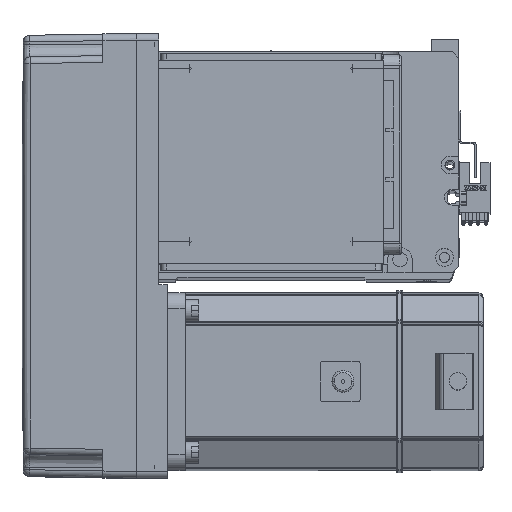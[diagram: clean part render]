
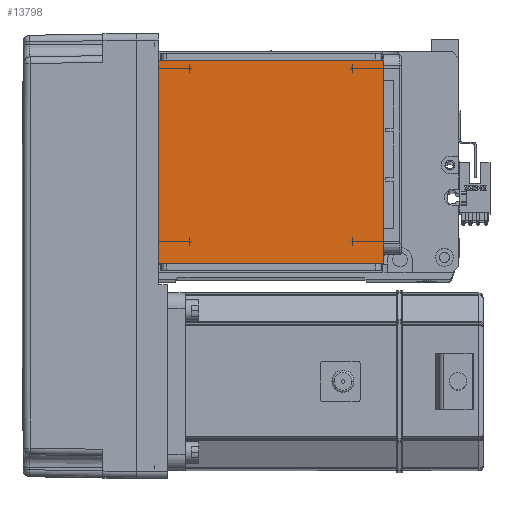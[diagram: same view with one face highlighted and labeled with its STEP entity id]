
A CAD part, top view. The second image highlights one B-rep face of the part: STEP entity #13798.
In plain terms, the highlighted planar face has unit normal (0, 0, 1).
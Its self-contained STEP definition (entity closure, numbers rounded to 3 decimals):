
#951 = CARTESIAN_POINT ( 'NONE',  ( -50.5, 20., 115. ) ) ;
#6072 = EDGE_LOOP ( 'NONE', ( #46774, #31481, #7995, #28742 ) ) ;
#7995 = ORIENTED_EDGE ( 'NONE', *, *, #54649, .F. ) ;
#8229 = LINE ( 'NONE', #21272, #42217 ) ;
#8846 = PLANE ( 'NONE',  #18707 ) ;
#8885 = EDGE_CURVE ( 'NONE', #14422, #14945, #8229, .T. ) ;
#9583 = DIRECTION ( 'NONE',  ( 1., 0., 0. ) ) ;
#12773 = DIRECTION ( 'NONE',  ( 0., -1., 0. ) ) ;
#13798 = ADVANCED_FACE ( 'NONE', ( #48757 ), #8846, .T. ) ;
#13892 = VERTEX_POINT ( 'NONE', #951 ) ;
#14422 = VERTEX_POINT ( 'NONE', #37706 ) ;
#14945 = VERTEX_POINT ( 'NONE', #43489 ) ;
#16420 = EDGE_CURVE ( 'NONE', #38461, #13892, #26202, .T. ) ;
#18707 = AXIS2_PLACEMENT_3D ( 'NONE', #48520, #26209, #26604 ) ;
#20685 = EDGE_CURVE ( 'NONE', #38461, #14945, #20797, .T. ) ;
#20797 = LINE ( 'NONE', #49457, #39549 ) ;
#21272 = CARTESIAN_POINT ( 'NONE',  ( 50.5, 122., 115. ) ) ;
#22771 = VECTOR ( 'NONE', #12773, 1000. ) ;
#24944 = DIRECTION ( 'NONE',  ( 0., 1., 0. ) ) ;
#26202 = LINE ( 'NONE', #35037, #22771 ) ;
#26209 = DIRECTION ( 'NONE',  ( 0., 0., 1. ) ) ;
#26604 = DIRECTION ( 'NONE',  ( 1., 0., 0. ) ) ;
#28742 = ORIENTED_EDGE ( 'NONE', *, *, #8885, .T. ) ;
#30460 = DIRECTION ( 'NONE',  ( -1., 0., 0. ) ) ;
#31481 = ORIENTED_EDGE ( 'NONE', *, *, #16420, .T. ) ;
#35037 = CARTESIAN_POINT ( 'NONE',  ( -50.5, 122., 115. ) ) ;
#37706 = CARTESIAN_POINT ( 'NONE',  ( 50.5, 20., 115. ) ) ;
#38461 = VERTEX_POINT ( 'NONE', #50877 ) ;
#39549 = VECTOR ( 'NONE', #9583, 1000. ) ;
#42217 = VECTOR ( 'NONE', #24944, 1000. ) ;
#43489 = CARTESIAN_POINT ( 'NONE',  ( 50.5, 111.5, 115. ) ) ;
#45004 = LINE ( 'NONE', #56764, #53938 ) ;
#46774 = ORIENTED_EDGE ( 'NONE', *, *, #20685, .F. ) ;
#48520 = CARTESIAN_POINT ( 'NONE',  ( 0., 0., 115. ) ) ;
#48757 = FACE_OUTER_BOUND ( 'NONE', #6072, .T. ) ;
#49457 = CARTESIAN_POINT ( 'NONE',  ( -70.004, 111.5, 115. ) ) ;
#50877 = CARTESIAN_POINT ( 'NONE',  ( -50.5, 111.5, 115. ) ) ;
#53938 = VECTOR ( 'NONE', #30460, 1000. ) ;
#54649 = EDGE_CURVE ( 'NONE', #14422, #13892, #45004, .T. ) ;
#56764 = CARTESIAN_POINT ( 'NONE',  ( -70.004, 20., 115. ) ) ;
